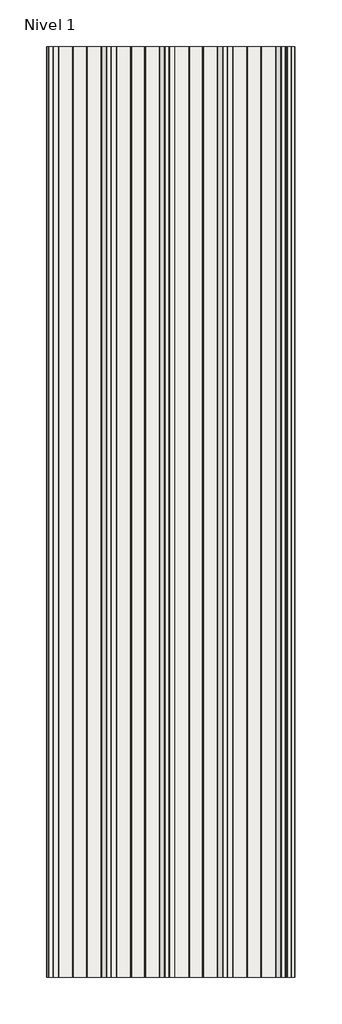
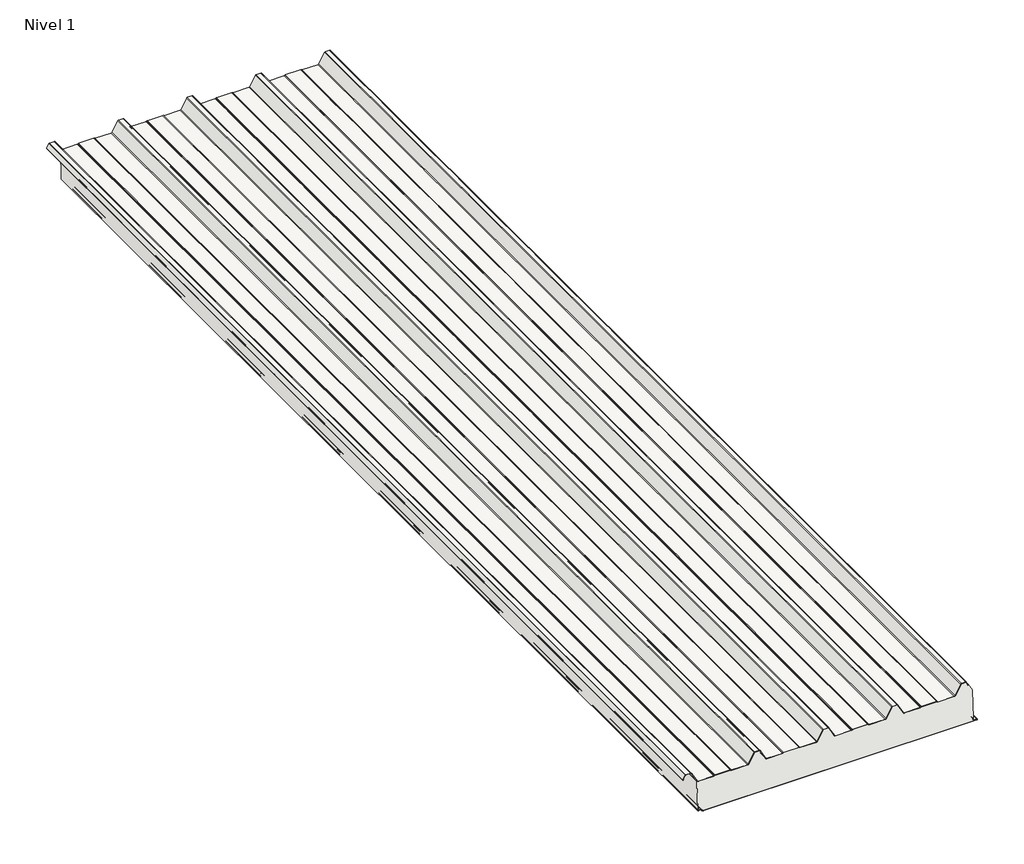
# One storey: 1 slab.
"""IFC4 building model written with IfcOpenShell, lengths in millimetres."""

from ifc_helpers import new_model, si_unit, origin, place, context, project, spatial, transform, mapped, element, save
from components import hi_quadcore_2_0_xt_dual_120_liso_grecada_ebd4d004, hi_quadcore_2_0_xt_dual_120_liso_grecada_2a128a65

model = new_model("IFC4")

# Units and contexts
model_context = context("Model", 3, world=origin())
ifc_project = project(units=[si_unit("LENGTHUNIT", "METRE", prefix="MILLI")], contexts=[model_context])

# Site, building, storey
site = spatial("IfcSite", under=ifc_project)
building = spatial("IfcBuilding", under=site)
storey = spatial("IfcBuildingStorey", under=building, Name="Nivel 1", Elevation=0.0)

# Slab
placement = place(None, origin())
hi_quadcore_2_0_xt_dual_120_liso_grecada_shape = hi_quadcore_2_0_xt_dual_120_liso_grecada_ebd4d004(model_context)
hi_quadcore_2_0_xt_dual_120_liso_grecada_2_shape = hi_quadcore_2_0_xt_dual_120_liso_grecada_2a128a65(model_context)
element("IfcSlab", 1, ObjectType="Panel_HI_QuadCore 2.0 XT-XT DUAL_liso-grecada : HI-Quadcore 2.0 XT DUAL 120 liso-grecada", at=placement, inside=storey, context=model_context, shape_type="MappedRepresentation", body=[
    mapped(hi_quadcore_2_0_xt_dual_120_liso_grecada_shape, transform((179.0307103, 435.507424, 0.0), x_axis=(1.0, 0.0, 0.0), y_axis=(0.0, 1.0, 0.0), z_axis=(0.0, 0.0, 1.0))),
    mapped(hi_quadcore_2_0_xt_dual_120_liso_grecada_2_shape, transform((179.0307103, 435.507424, 0.0), x_axis=(1.0, 0.0, 0.0), y_axis=(0.0, 1.0, 0.0), z_axis=(0.0, 0.0, 1.0))),
])

save(model, "model.ifc")
